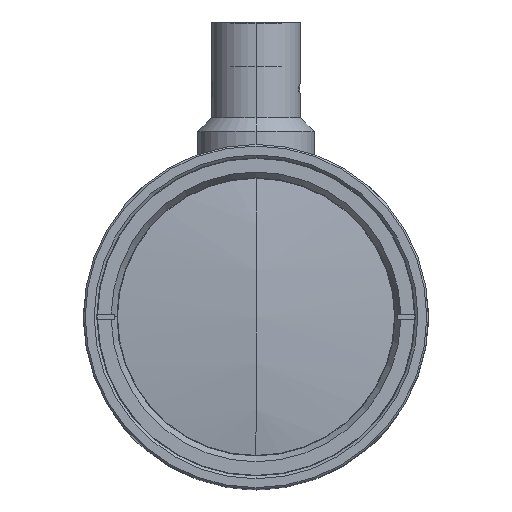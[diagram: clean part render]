
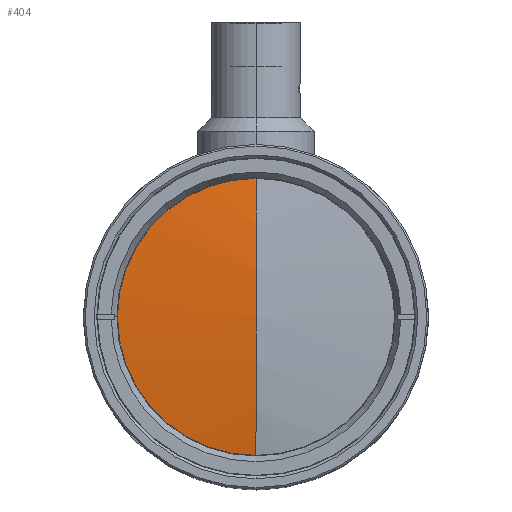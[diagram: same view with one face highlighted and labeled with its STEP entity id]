
A CAD part, top view. The second image highlights one B-rep face of the part: STEP entity #404.
In plain terms, the highlighted spherical face has radius 143.3 mm.
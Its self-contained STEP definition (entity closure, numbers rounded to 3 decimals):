
#336 = EDGE_CURVE ( 'NONE', #7193, #35798, #2091, .T. ) ;
#388 = EDGE_CURVE ( 'NONE', #14982, #12975, #23094, .T. ) ;
#404 = ADVANCED_FACE ( 'NONE', ( #21700 ), #37524, .T. ) ;
#980 = EDGE_LOOP ( 'NONE', ( #24657, #34264, #19409, #37923 ) ) ;
#2091 = CIRCLE ( 'NONE', #15876, 24.905 ) ;
#3129 = DIRECTION ( 'NONE',  ( 0., 0., -1. ) ) ;
#4552 = CARTESIAN_POINT ( 'NONE',  ( 0., -24.905, 296.802 ) ) ;
#6220 = DIRECTION ( 'NONE',  ( -1., 0., 0. ) ) ;
#7193 = VERTEX_POINT ( 'NONE', #34160 ) ;
#8901 = DIRECTION ( 'NONE',  ( 0., 0., -1. ) ) ;
#9321 = CARTESIAN_POINT ( 'NONE',  ( 0., 0., 155.683 ) ) ;
#10080 = AXIS2_PLACEMENT_3D ( 'NONE', #40260, #21556, #37179 ) ;
#10589 = AXIS2_PLACEMENT_3D ( 'NONE', #9321, #6220, #18795 ) ;
#12975 = VERTEX_POINT ( 'NONE', #30424 ) ;
#14982 = VERTEX_POINT ( 'NONE', #4552 ) ;
#15489 = CARTESIAN_POINT ( 'NONE',  ( 0., 0., 155.683 ) ) ;
#15876 = AXIS2_PLACEMENT_3D ( 'NONE', #37113, #8901, #37321 ) ;
#18152 = CIRCLE ( 'NONE', #26050, 24.905 ) ;
#18571 = CARTESIAN_POINT ( 'NONE',  ( 0., 0., 296.802 ) ) ;
#18592 = DIRECTION ( 'NONE',  ( -1., 0., 0. ) ) ;
#18795 = DIRECTION ( 'NONE',  ( 0., 1., 0. ) ) ;
#19409 = ORIENTED_EDGE ( 'NONE', *, *, #39702, .F. ) ;
#19921 = EDGE_CURVE ( 'NONE', #14982, #7193, #18152, .T. ) ;
#21556 = DIRECTION ( 'NONE',  ( 1., 0., 0. ) ) ;
#21700 = FACE_OUTER_BOUND ( 'NONE', #980, .T. ) ;
#23094 = CIRCLE ( 'NONE', #28363, 143.3 ) ;
#23222 = CIRCLE ( 'NONE', #10080, 143.3 ) ;
#24657 = ORIENTED_EDGE ( 'NONE', *, *, #19921, .F. ) ;
#26050 = AXIS2_PLACEMENT_3D ( 'NONE', #18571, #3129, #30938 ) ;
#27655 = DIRECTION ( 'NONE',  ( 0., -1., 0. ) ) ;
#28363 = AXIS2_PLACEMENT_3D ( 'NONE', #15489, #18592, #27655 ) ;
#30424 = CARTESIAN_POINT ( 'NONE',  ( 0., 0., 298.983 ) ) ;
#30938 = DIRECTION ( 'NONE',  ( -1., 0., 0. ) ) ;
#34160 = CARTESIAN_POINT ( 'NONE',  ( -24.905, 0., 296.802 ) ) ;
#34264 = ORIENTED_EDGE ( 'NONE', *, *, #388, .T. ) ;
#35798 = VERTEX_POINT ( 'NONE', #36591 ) ;
#36591 = CARTESIAN_POINT ( 'NONE',  ( 0., 24.905, 296.802 ) ) ;
#37113 = CARTESIAN_POINT ( 'NONE',  ( 0., 0., 296.802 ) ) ;
#37179 = DIRECTION ( 'NONE',  ( 0., 0., -1. ) ) ;
#37321 = DIRECTION ( 'NONE',  ( -1., 0., 0. ) ) ;
#37524 = SPHERICAL_SURFACE ( 'NONE', #10589, 143.3 ) ;
#37923 = ORIENTED_EDGE ( 'NONE', *, *, #336, .F. ) ;
#39702 = EDGE_CURVE ( 'NONE', #35798, #12975, #23222, .T. ) ;
#40260 = CARTESIAN_POINT ( 'NONE',  ( 0., 0., 155.683 ) ) ;
